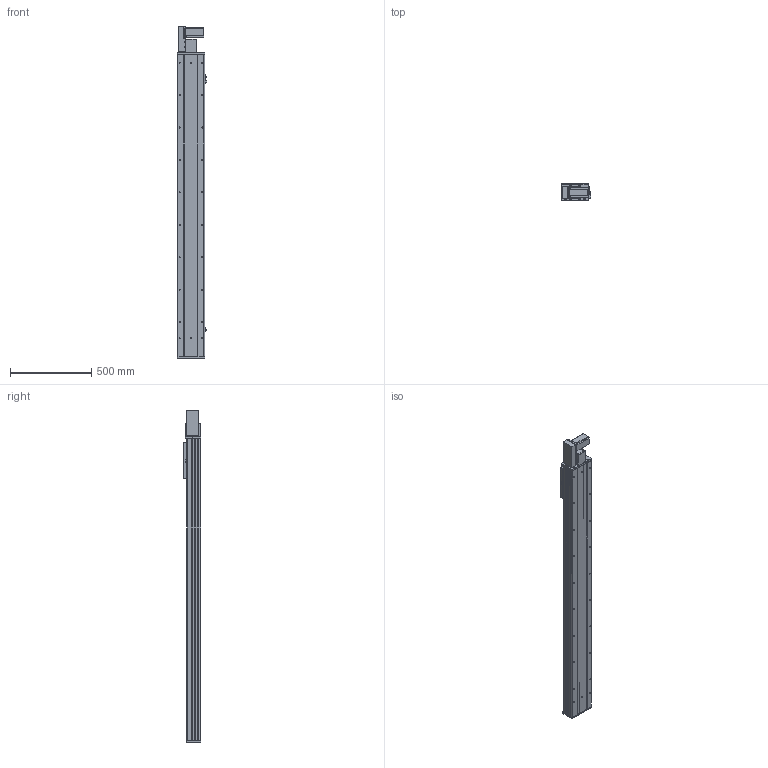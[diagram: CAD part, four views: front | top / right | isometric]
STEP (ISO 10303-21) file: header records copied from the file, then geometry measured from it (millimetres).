
FILE_DESCRIPTION (( 'STEP AP203' ), '1' );
FILE_NAME ('Y170CB-D105-S1550-BL-P400W.STEP', '2020-02-20T01:27:23', ( '微软用户' ), ( '微软中国' ), 'SwSTEP 2.0', 'SolidWorks 2017', '' );
FILE_SCHEMA (( 'CONFIG_CONTROL_DESIGN' ));
Length unit declared in the file: millimetre
Products named in the file (18): 70CB-詩湍--; Y70俋欶BR----; Y100-135俋离換覜ん--; 70CB-掛极-; Y170CB-陔俋离換覜結え---; --70CB --喘謫眊楊擘啣-; 70B喘謫眊----; 70CB-耜裔啣-; Y1埴倛裔; 70C--詩湍揤踡え-; B-源倛裔啣; Y170CB-D105-S1550-BL-P400W; 70CB--耜裔; 17B-耜蚾蟀諉啣----; 70C-雄赽釱-奻-; 0B-萇儂楊擘啣; 0C--雄赽釱俋欶-170; san松下电机400不带刹车----
Assembly tree (21 placements, depth 2):
  Y170CB-D105-S1550-BL-P400W
    B-源倛裔啣
    17B-耜蚾蟀諉啣----
    0B-萇儂楊擘啣
    san松下电机400不带刹车----
    Y70俋欶BR----
    70CB-掛极-
    --70CB --喘謫眊楊擘啣-
    70CB-耜裔啣-  x2
    70C--詩湍揤踡え-  x2
    70CB--耜裔
    70C-雄赽釱-奻-
    0C--雄赽釱俋欶-170
    70CB-詩湍--
    Y100-135俋离換覜ん--  x3
    Y170CB-陔俋离換覜結え---
    70B喘謫眊----
    Y1埴倛裔
Bounding box: 183.5 x 107 x 2047 mm (x, y, z)
Volume: 8702848.5 mm3; surface area: 3129781.4 mm2
Topology: 21 solids, 21 shells, 1031 faces, 2765 edges, 1834 vertices
Faces by surface type: cylinder 543, plane 464, cone 24
Entity records: 32904 total; most frequent: CARTESIAN_POINT 6036, DIRECTION 5350, ORIENTED_EDGE 5012, EDGE_CURVE 2506, AXIS2_PLACEMENT_3D 1964, VERTEX_POINT 1664, VECTOR 1422, LINE 1422
